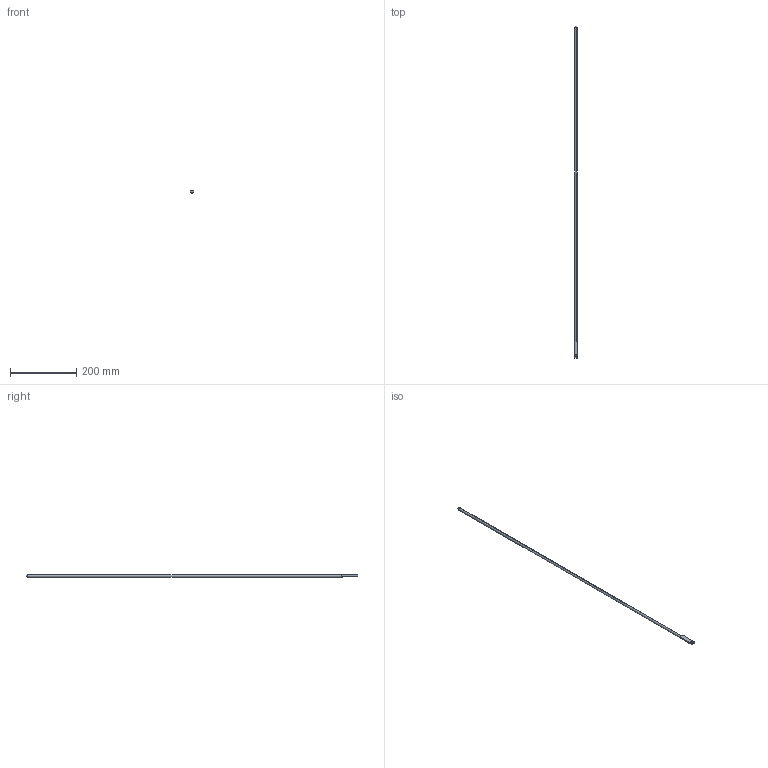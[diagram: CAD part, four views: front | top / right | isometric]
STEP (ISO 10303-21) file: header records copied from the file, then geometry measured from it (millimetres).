
FILE_DESCRIPTION (( 'STEP AP214' ), '1' );
FILE_NAME ('2.GE0100.03.05.00.STEP', '2013-05-06T07:21:20', ( 'lukasz' ), ( 'ATC' ), 'SwSTEP 2.0', 'SolidWorks 2013', '' );
FILE_SCHEMA (( 'AUTOMOTIVE_DESIGN' ));
Length unit declared in the file: millimetre
Products named in the file (1): 2.GE0100.03.05.00
Bounding box: 12 x 1000 x 8 mm (x, y, z)
Volume: 49939.1 mm3; surface area: 25538.6 mm2
Topology: 1 solids, 1 shells, 19 faces, 44 edges, 26 vertices
Faces by surface type: cylinder 8, plane 8, cone 2, sphere 1
Entity records: 572 total; most frequent: DIRECTION 104, CARTESIAN_POINT 89, ORIENTED_EDGE 86, EDGE_CURVE 43, AXIS2_PLACEMENT_3D 41, VERTEX_POINT 26, VECTOR 22, LINE 22
